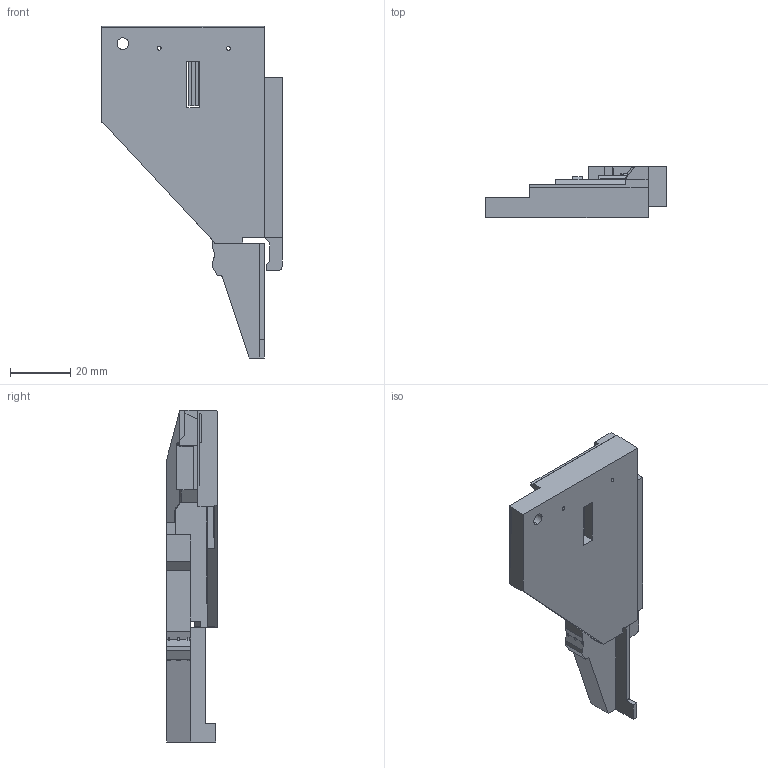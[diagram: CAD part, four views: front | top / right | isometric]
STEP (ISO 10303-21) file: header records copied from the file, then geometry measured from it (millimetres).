
FILE_DESCRIPTION (( 'STEP AP214' ), '1' );
FILE_NAME ('Rastkupplung-0D_Rechts_KD60109700.STEP', '2014-07-09T10:07:43', ( '' ), ( '' ), 'SwSTEP 2.0', 'SolidWorks 2013', '' );
FILE_SCHEMA (( 'AUTOMOTIVE_DESIGN' ));
Length unit declared in the file: millimetre
Products named in the file (1): Rastkupplung-0D_Rechts_KD60109700
Bounding box: 59.85 x 16.9 x 110.2 mm (x, y, z)
Volume: 32551.3 mm3; surface area: 15343 mm2
Topology: 1 solids, 8 shells, 324 faces, 887 edges, 574 vertices
Faces by surface type: plane 160, cylinder 84, bspline 45, torus 26, sphere 7, cone 2
Entity records: 10923 total; most frequent: CARTESIAN_POINT 3267, ORIENTED_EDGE 1764, DIRECTION 1353, EDGE_CURVE 882, VERTEX_POINT 574, LINE 541, VECTOR 541, AXIS2_PLACEMENT_3D 406
